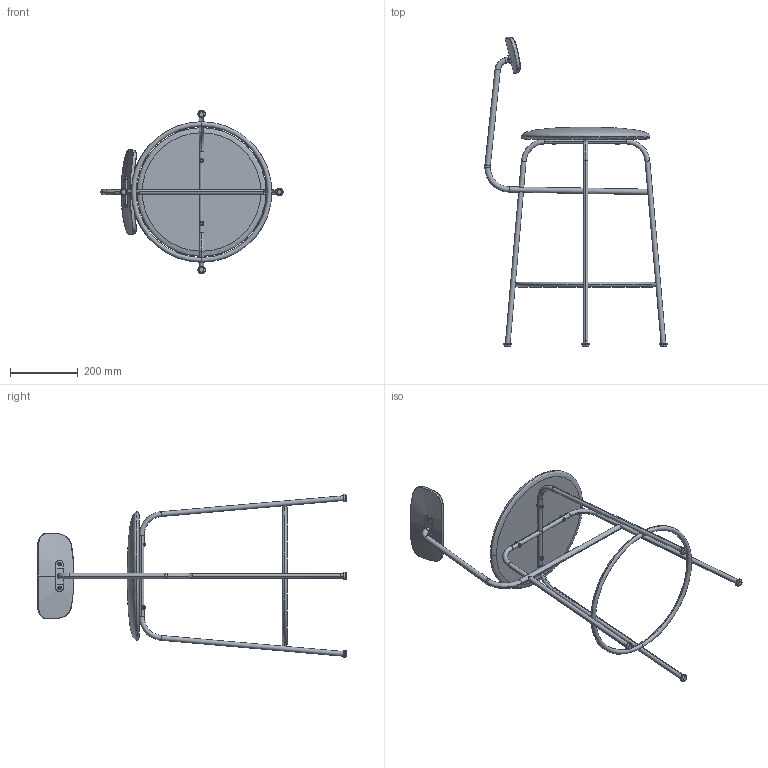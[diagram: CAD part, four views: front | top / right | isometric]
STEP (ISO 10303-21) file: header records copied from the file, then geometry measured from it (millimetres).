
FILE_DESCRIPTION (( 'STEP AP214' ), '1' );
FILE_NAME ('AFR_Counter Chair plywood back.STEP', '2024-01-03T15:09:06', ( '' ), ( '' ), 'SwSTEP 2.0', 'SolidWorks 2022', '' );
FILE_SCHEMA (( 'AUTOMOTIVE_DESIGN' ));
Length unit declared in the file: millimetre
Products named in the file (18): afteroom counter chair seat frame 3; Back mounting_Default<As Machined>; afteroom counter chair seat frame 1a; socket button head screw_iso_ISO 7380 - M6 x 12 - 12S; Mount disk; Skids; Mirrorafteroom counter chair seat frame 2; Uph_Seat; 1000003; Afteroom_Dining_Chair_ply_seat_assem; Thread for backrest; afteroom counter chair feet disk; M6 x 6 mm threaded insert; AFR_Counter Chair plywood back; afteroom counter chair seat frame 2; Countersunk m6 25; afteroom counter chair back frame; afteroom counter chair seat frame 1b
Assembly tree (34 placements, depth 3):
  AFR_Counter Chair plywood back
    afteroom counter chair seat frame 1a
    afteroom counter chair back frame
    afteroom counter chair seat frame 1b
    afteroom counter chair seat frame 2
    afteroom counter chair seat frame 3
    Back mounting_Default<As Machined>
    1000003
    socket button head screw_iso_ISO 7380 - M6 x 12 - 12S  x2
    Thread for backrest  x2
    Skids  x4
    Mount disk  x4
    Countersunk m6 25  x4
    Mirrorafteroom counter chair seat frame 2
    afteroom counter chair feet disk  x4
    Afteroom_Dining_Chair_ply_seat_assem
      M6 x 6 mm threaded insert  x4
    Uph_Seat
Bounding box: 538.03 x 912.87 x 481.48 mm (x, y, z)
Volume: 3926462.3 mm3; surface area: 750287.3 mm2
Topology: 34 solids, 35 shells, 838 faces, 2058 edges, 1293 vertices
Faces by surface type: cylinder 444, cone 152, plane 133, torus 56, bspline 41, sphere 12
Entity records: 28160 total; most frequent: CARTESIAN_POINT 18223, ORIENTED_EDGE 1952, DIRECTION 1897, EDGE_CURVE 976, AXIS2_PLACEMENT_3D 793, VERTEX_POINT 608, EDGE_LOOP 456, ADVANCED_FACE 407
